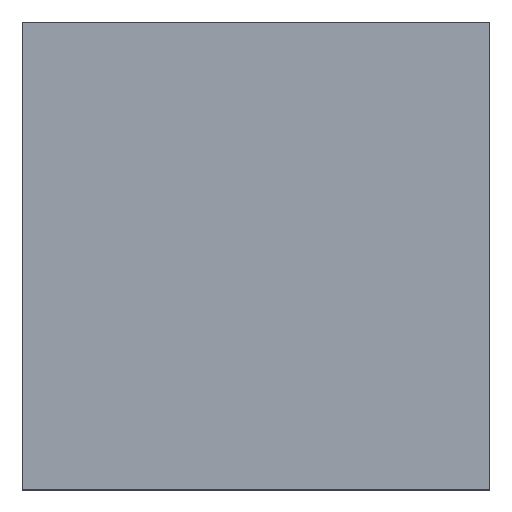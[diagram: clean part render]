
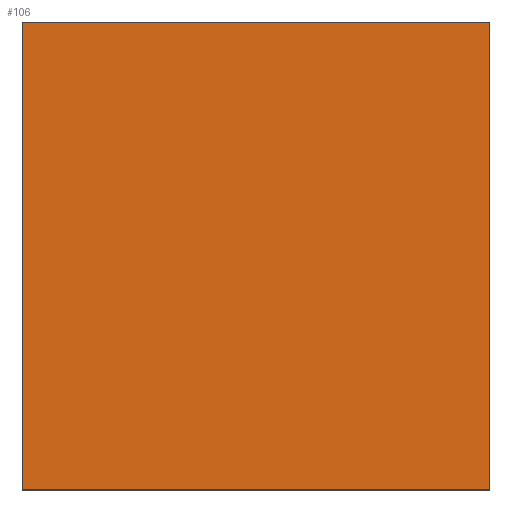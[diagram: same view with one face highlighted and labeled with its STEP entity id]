
A CAD part, top view. The second image highlights one B-rep face of the part: STEP entity #106.
In plain terms, the highlighted planar face has unit normal (0, 0, 1).
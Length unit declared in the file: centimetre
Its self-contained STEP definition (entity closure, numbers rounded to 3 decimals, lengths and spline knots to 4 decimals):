
#22 = VECTOR ( 'NONE', #418, 100. ) ;
#45 = AXIS2_PLACEMENT_3D ( 'NONE', #603, #526, #207 ) ;
#47 = LINE ( 'NONE', #48, #22 ) ;
#48 = CARTESIAN_POINT ( 'NONE',  ( 0., 1000., 1000. ) ) ;
#54 = DIRECTION ( 'NONE',  ( 1., 0., 0. ) ) ;
#80 = ORIENTED_EDGE ( 'NONE', *, *, #668, .T. ) ;
#96 = VECTOR ( 'NONE', #536, 100. ) ;
#106 = ADVANCED_FACE ( 'NONE', ( #228 ), #175, .T. ) ;
#138 = VERTEX_POINT ( 'NONE', #149 ) ;
#144 = CARTESIAN_POINT ( 'NONE',  ( 0., 1000., 1000. ) ) ;
#149 = CARTESIAN_POINT ( 'NONE',  ( 1000., 1000., 1000. ) ) ;
#164 = CARTESIAN_POINT ( 'NONE',  ( 1000., 0., 1000. ) ) ;
#175 = PLANE ( 'NONE',  #45 ) ;
#187 = VERTEX_POINT ( 'NONE', #611 ) ;
#207 = DIRECTION ( 'NONE',  ( 1., 0., 0. ) ) ;
#212 = CARTESIAN_POINT ( 'NONE',  ( 1000., 1000., 1000. ) ) ;
#228 = FACE_OUTER_BOUND ( 'NONE', #452, .T. ) ;
#289 = EDGE_CURVE ( 'NONE', #138, #187, #618, .T. ) ;
#315 = EDGE_CURVE ( 'NONE', #187, #356, #47, .T. ) ;
#319 = VECTOR ( 'NONE', #352, 100. ) ;
#328 = EDGE_CURVE ( 'NONE', #485, #138, #626, .T. ) ;
#352 = DIRECTION ( 'NONE',  ( -1., 0., 0. ) ) ;
#356 = VERTEX_POINT ( 'NONE', #420 ) ;
#407 = ORIENTED_EDGE ( 'NONE', *, *, #328, .T. ) ;
#418 = DIRECTION ( 'NONE',  ( 0., -1., 0. ) ) ;
#420 = CARTESIAN_POINT ( 'NONE',  ( 0., 0., 1000. ) ) ;
#452 = EDGE_LOOP ( 'NONE', ( #693, #80, #407, #622 ) ) ;
#485 = VERTEX_POINT ( 'NONE', #164 ) ;
#526 = DIRECTION ( 'NONE',  ( 0., 0., 1. ) ) ;
#528 = CARTESIAN_POINT ( 'NONE',  ( 0., 0., 1000. ) ) ;
#531 = VECTOR ( 'NONE', #54, 100. ) ;
#536 = DIRECTION ( 'NONE',  ( 0., 1., 0. ) ) ;
#603 = CARTESIAN_POINT ( 'NONE',  ( 0., 0., 1000. ) ) ;
#611 = CARTESIAN_POINT ( 'NONE',  ( 0., 1000., 1000. ) ) ;
#618 = LINE ( 'NONE', #144, #319 ) ;
#622 = ORIENTED_EDGE ( 'NONE', *, *, #289, .T. ) ;
#626 = LINE ( 'NONE', #212, #96 ) ;
#627 = LINE ( 'NONE', #528, #531 ) ;
#668 = EDGE_CURVE ( 'NONE', #356, #485, #627, .T. ) ;
#693 = ORIENTED_EDGE ( 'NONE', *, *, #315, .T. ) ;
